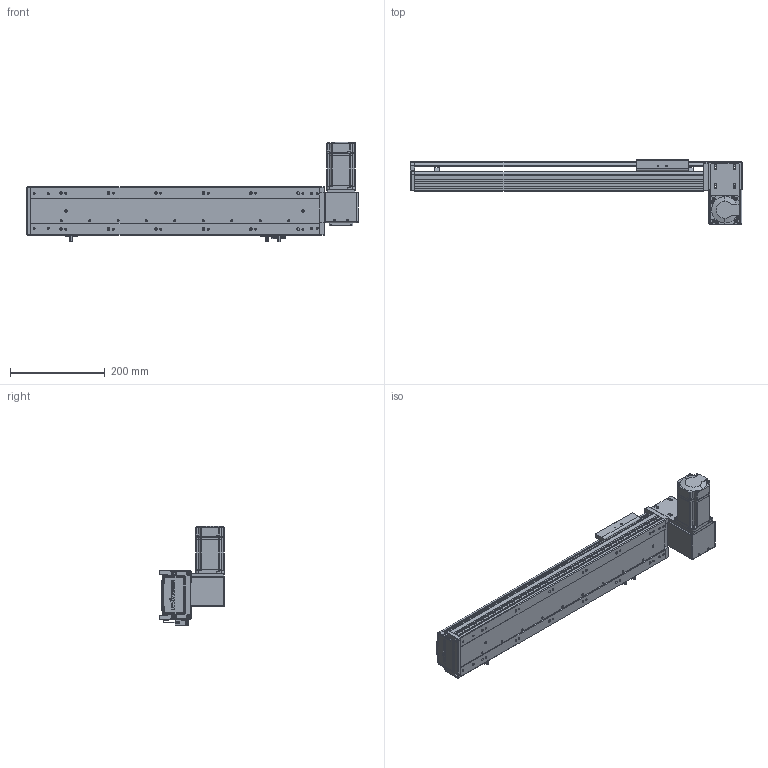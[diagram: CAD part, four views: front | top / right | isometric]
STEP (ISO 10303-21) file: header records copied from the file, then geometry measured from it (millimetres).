
FILE_DESCRIPTION (( 'STEP AP203' ), '1' );
FILE_NAME ('RY100-T-300-DR.SLDASM_400.step', '2024-04-25T03:22:03', ( '盈信电脑' ), ( '东莞市道滘镇水果街19号' ), 'SwSTEP 2.0', 'SolidWorks 2016', '' );
FILE_SCHEMA (( 'CONFIG_CONTROL_DESIGN' ));
Length unit declared in the file: millimetre
Products named in the file (16): RY100-T-300-DR.SLDASM_400; 侂狟200W萇儂; 滅袉蝶18-10; RY100-T翋肮祭謫裔啣; RY100綴裔啣; RY100-T肮祭謫臏賑輸; RY100-T翋肮祭謫裔啣2; RY100俋离覜茼え; 1; 覜茼ん672; RY80-T肮祭謫狟殏俋欶; RY100-T肮祭謫翋盓傅釱; RY100-T-300-RK倰第菁釱_400; RY100-T粣創揤踡裔; RY100-T左右折电机安装板; RY100-T-300-RK倰第奻裔_400
Assembly tree (19 placements, depth 3):
  RY100-T-300-DR.SLDASM_400
    RY100-T-300-RK倰第菁釱_400
    RY100-T-300-RK倰第奻裔_400
    RY100-T肮祭謫臏賑輸
    RY100綴裔啣
    覜茼ん672  x3
    RY100俋离覜茼え
    RY100-T肮祭謫翋盓傅釱
    RY100-T左右折电机安装板
    侂狟200W萇儂
      1
    RY100-T粣創揤踡裔
    滅袉蝶18-10  x2
    RY100-T翋肮祭謫裔啣2  x2
    RY100-T翋肮祭謫裔啣
    RY80-T肮祭謫狟殏俋欶
Bounding box: 700 x 135.5 x 209.7 mm (x, y, z)
Volume: 1683328.4 mm3; surface area: 667876.5 mm2
Topology: 18 solids, 18 shells, 2177 faces, 6032 edges, 3916 vertices
Faces by surface type: plane 1209, cylinder 761, cone 129, bspline 78
Entity records: 69243 total; most frequent: CARTESIAN_POINT 16578, ORIENTED_EDGE 10800, DIRECTION 10284, EDGE_CURVE 5400, VERTEX_POINT 3552, LINE 3542, VECTOR 3542, AXIS2_PLACEMENT_3D 3371
